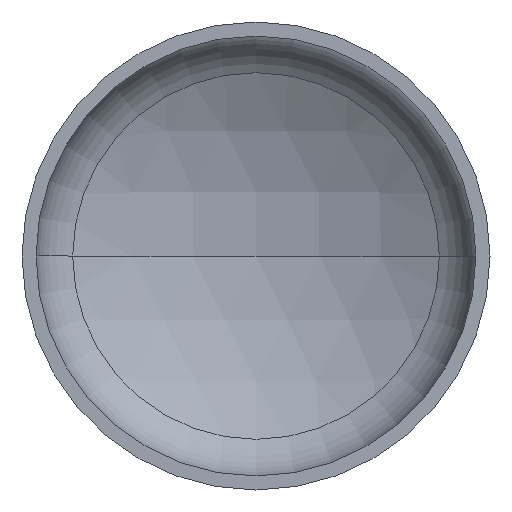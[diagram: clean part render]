
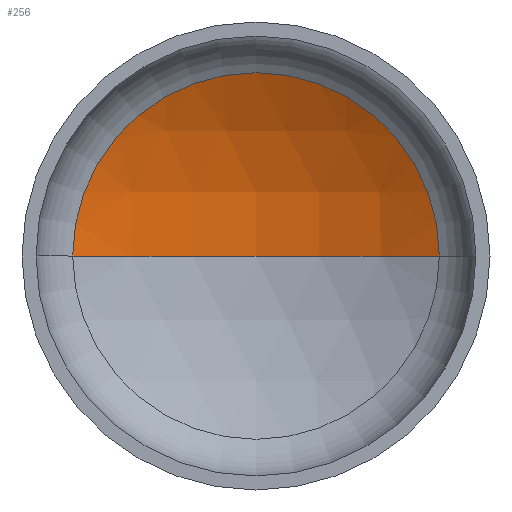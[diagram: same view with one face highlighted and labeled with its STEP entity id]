
A CAD part, front view. The second image highlights one B-rep face of the part: STEP entity #256.
In plain terms, the highlighted spherical face has radius 1120 mm.
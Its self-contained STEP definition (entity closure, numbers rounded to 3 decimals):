
#4 = CARTESIAN_POINT ( 'NONE',  ( -548.243, 317.48, 0. ) ) ;
#7 = AXIS2_PLACEMENT_3D ( 'NONE', #361, #151, #155 ) ;
#8 = AXIS2_PLACEMENT_3D ( 'NONE', #362, #154, #393 ) ;
#31 = EDGE_LOOP ( 'NONE', ( #180, #133, #171 ) ) ;
#32 = AXIS2_PLACEMENT_3D ( 'NONE', #282, #284, #242 ) ;
#33 = AXIS2_PLACEMENT_3D ( 'NONE', #214, #215, #190 ) ;
#43 = VERTEX_POINT ( 'NONE', #291 ) ;
#69 = EDGE_CURVE ( 'NONE', #43, #136, #158, .T. ) ;
#126 = FACE_OUTER_BOUND ( 'NONE', #31, .T. ) ;
#133 = ORIENTED_EDGE ( 'NONE', *, *, #340, .T. ) ;
#136 = VERTEX_POINT ( 'NONE', #4 ) ;
#142 = VERTEX_POINT ( 'NONE', #363 ) ;
#151 = DIRECTION ( 'NONE',  ( 0., 0., -1. ) ) ;
#154 = DIRECTION ( 'NONE',  ( 0., 0., 1. ) ) ;
#155 = DIRECTION ( 'NONE',  ( -1., 0., 0. ) ) ;
#158 = CIRCLE ( 'NONE', #33, 548.243 ) ;
#171 = ORIENTED_EDGE ( 'NONE', *, *, #69, .T. ) ;
#180 = ORIENTED_EDGE ( 'NONE', *, *, #355, .F. ) ;
#190 = DIRECTION ( 'NONE',  ( 1., 0., 0. ) ) ;
#214 = CARTESIAN_POINT ( 'NONE',  ( 0., 317.48, 0. ) ) ;
#215 = DIRECTION ( 'NONE',  ( 0., -1., 0. ) ) ;
#240 = SPHERICAL_SURFACE ( 'NONE', #32, 1120. ) ;
#242 = DIRECTION ( 'NONE',  ( -1., 0., 0. ) ) ;
#256 = ADVANCED_FACE ( 'NONE', ( #126 ), #240, .F. ) ;
#263 = CIRCLE ( 'NONE', #8, 1120. ) ;
#282 = CARTESIAN_POINT ( 'NONE',  ( 0., -659.162, 0. ) ) ;
#284 = DIRECTION ( 'NONE',  ( 0., 0., -1. ) ) ;
#291 = CARTESIAN_POINT ( 'NONE',  ( 548.243, 317.48, 0. ) ) ;
#332 = CIRCLE ( 'NONE', #7, 1120. ) ;
#340 = EDGE_CURVE ( 'NONE', #142, #43, #332, .T. ) ;
#355 = EDGE_CURVE ( 'NONE', #142, #136, #263, .T. ) ;
#361 = CARTESIAN_POINT ( 'NONE',  ( 0., -659.162, 0. ) ) ;
#362 = CARTESIAN_POINT ( 'NONE',  ( 0., -659.162, 0. ) ) ;
#363 = CARTESIAN_POINT ( 'NONE',  ( 0., 460.838, 0. ) ) ;
#393 = DIRECTION ( 'NONE',  ( 1., 0., 0. ) ) ;
